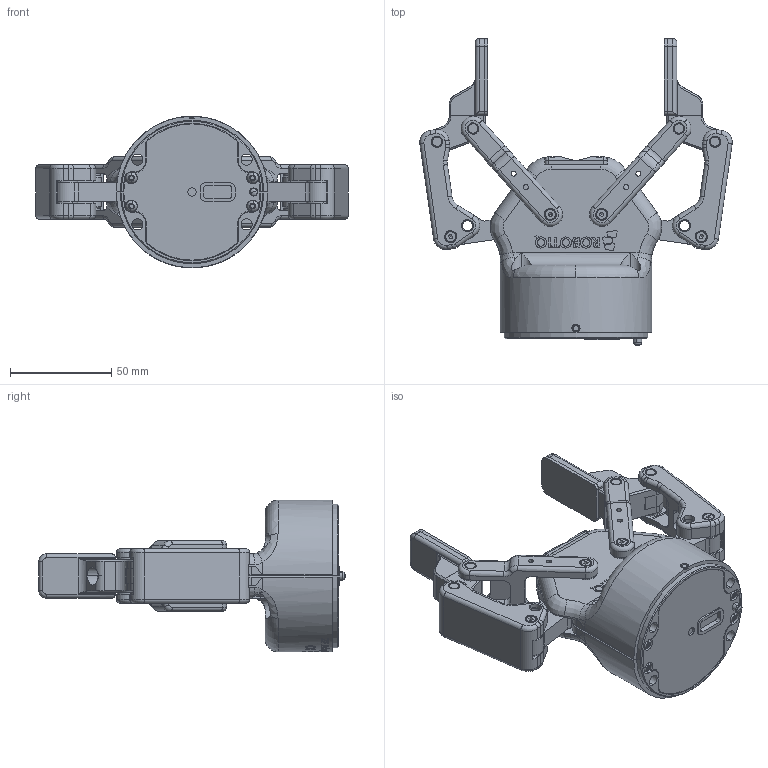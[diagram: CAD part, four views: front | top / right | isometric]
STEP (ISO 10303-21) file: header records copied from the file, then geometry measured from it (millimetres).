
FILE_DESCRIPTION (( 'STEP AP214' ), '1' );
FILE_NAME ('C-A01-85-OPEN.STEP', '2018-10-02T16:45:11', ( '' ), ( '' ), 'SwSTEP 2.0', 'SolidWorks 2017', '' );
FILE_SCHEMA (( 'AUTOMOTIVE_DESIGN' ));
Length unit declared in the file: millimetre
Products named in the file (1): C-A01-85-OPEN
Bounding box: 154.56 x 151.82 x 75 mm (x, y, z)
Volume: 312249.4 mm3; surface area: 78993.5 mm2
Topology: 15 solids, 15 shells, 3198 faces, 8353 edges, 5399 vertices
Faces by surface type: bspline 1030, plane 1016, cylinder 894, cone 114, torus 106, sphere 38
Full cylindrical faces by diameter (mm): 2.8 x1, 3.4 x4, 4.199 x2, 5.3 x2
Entity records: 211903 total; most frequent: CARTESIAN_POINT 110933, ORIENTED_EDGE 16666, DIRECTION 12606, EDGE_CURVE 8333, VERTEX_POINT 5399, AXIS2_PLACEMENT_3D 4447, LINE 3712, VECTOR 3712
